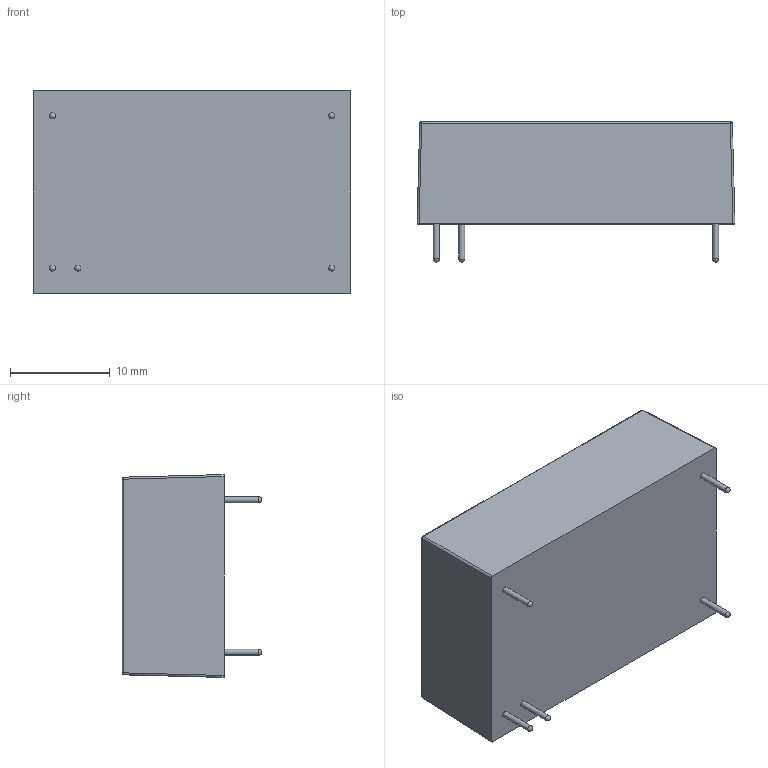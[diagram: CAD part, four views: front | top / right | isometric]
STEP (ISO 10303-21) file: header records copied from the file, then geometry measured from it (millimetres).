
FILE_DESCRIPTION (( 'STEP AP214' ), '1' );
FILE_NAME ('THM 10 Single.STEP', '2020-10-20T06:34:14', ( 'user' ), ( '' ), 'SwSTEP 2.0', 'SolidWorks 2016', '' );
FILE_SCHEMA (( 'AUTOMOTIVE_DESIGN' ));
Length unit declared in the file: millimetre
Products named in the file (2): THM 10 Single
Bounding box: 31.8 x 14 x 20.3 mm (x, y, z)
Volume: 6447.6 mm3; surface area: 2338.4 mm2
Topology: 1 solids, 1 shells, 28 faces, 75 edges, 40 vertices
Faces by surface type: cylinder 13, sphere 9, plane 6
Full cylindrical faces by diameter (mm): 0.6 x5
Entity records: 815 total; most frequent: DIRECTION 124, CARTESIAN_POINT 118, ORIENTED_EDGE 92, AXIS2_PLACEMENT_3D 52, EDGE_CURVE 46, EDGE_LOOP 38, FACE_OUTER_BOUND 33, VERTEX_POINT 30
